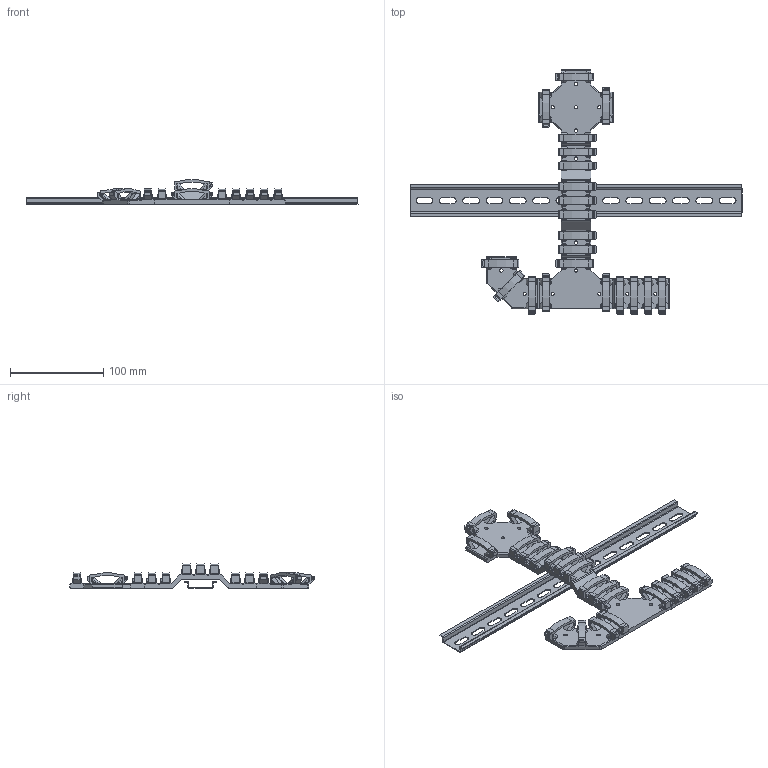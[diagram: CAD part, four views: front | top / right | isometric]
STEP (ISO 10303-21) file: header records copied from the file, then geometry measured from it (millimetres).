
FILE_DESCRIPTION(/* description */ (''),/* implementation_level */ '2;1');
FILE_NAME(/* name */ 'Cable Management head cap screw.step',/* time_stamp */ '2024-10-01T00:32:24+02:00',/* author */ (''),/* organization */ (''),/* preprocessor_version */ 'ST-DEVELOPER v20',/* originating_system */ 'Autodesk Translation Framework v13.20.0.188',/* authorisation */ '');
FILE_SCHEMA (('AUTOMOTIVE_DESIGN { 1 0 10303 214 3 1 1 }'));
Products named in the file (17): Cable Management Show; Cable_Guide_Bridge Assembly; Electronics Wire Guide Clip Assembly Bridge; Electronics Wire Guide Clip; Bridge_Cable_Guide; Cable_Guide_Stright Assembly; Stright_Cable_Guide; Roundabout_Assembly; Roundabout_Cable_Guide; Electronics Wire Guide Clip Assembly (1); DIN3 Rail v2 (1); Tee_Cable_Guide_Assembly; Electronics Wire Guide Clip Assembly (2); Tee_Cable_Guide; Cable_Guide_Curve Assembly; Curve_Cable_Guide; Electronics Wire Guide Clip Assembly
Assembly tree (16 placements, depth 4):
  Cable Management Show
    Cable_Guide_Bridge Assembly
      Electronics Wire Guide Clip Assembly Bridge
        Electronics Wire Guide Clip
      Bridge_Cable_Guide
    Cable_Guide_Stright Assembly
      Stright_Cable_Guide
    Roundabout_Assembly
      Roundabout_Cable_Guide
      Electronics Wire Guide Clip Assembly (1)
    DIN3 Rail v2 (1)
    Tee_Cable_Guide_Assembly
      Electronics Wire Guide Clip Assembly (2)
      Tee_Cable_Guide
    Cable_Guide_Curve Assembly
      Curve_Cable_Guide
      Electronics Wire Guide Clip Assembly
Bounding box: 355.92 x 261.6 x 26.56 mm (x, y, z)
Volume: 111079.3 mm3; surface area: 105207.2 mm2
Topology: 27 solids, 27 shells, 2958 faces, 7757 edges, 4927 vertices
Faces by surface type: plane 2055, cylinder 478, sphere 235, bspline 98, cone 54, torus 38
Full cylindrical faces by diameter (mm): 3.6 x14
Entity records: 92461 total; most frequent: CARTESIAN_POINT 19094, ORIENTED_EDGE 15514, DIRECTION 14513, EDGE_CURVE 7757, LINE 6197, VECTOR 6197, VERTEX_POINT 4927, AXIS2_PLACEMENT_3D 4158
